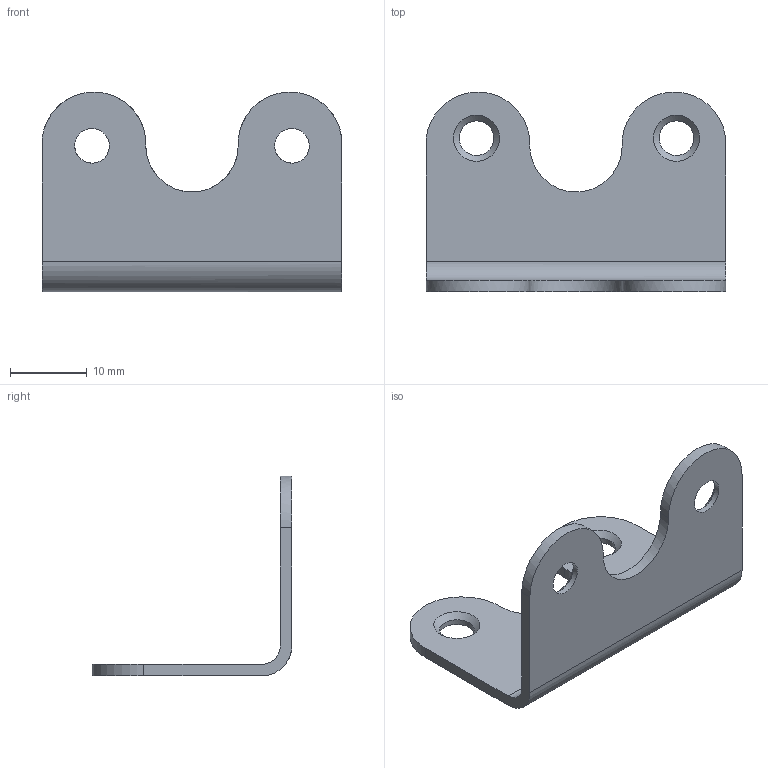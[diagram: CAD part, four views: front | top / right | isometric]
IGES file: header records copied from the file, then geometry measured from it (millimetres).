
Global section: file name: DR_S-AGS3926; native system: Autodesk Inventor 2015; preprocessor: unknown; author: Administrator; date: 20171012.165624; units: millimetre
Bounding box: 39 x 25.99 x 25.99 mm (x, y, z)
Volume: 2221.1 mm3; surface area: 3339.5 mm2
Topology: 1 solids, 1 shells, 22 faces, 64 edges, 44 vertices
Faces by surface type: bspline 22
